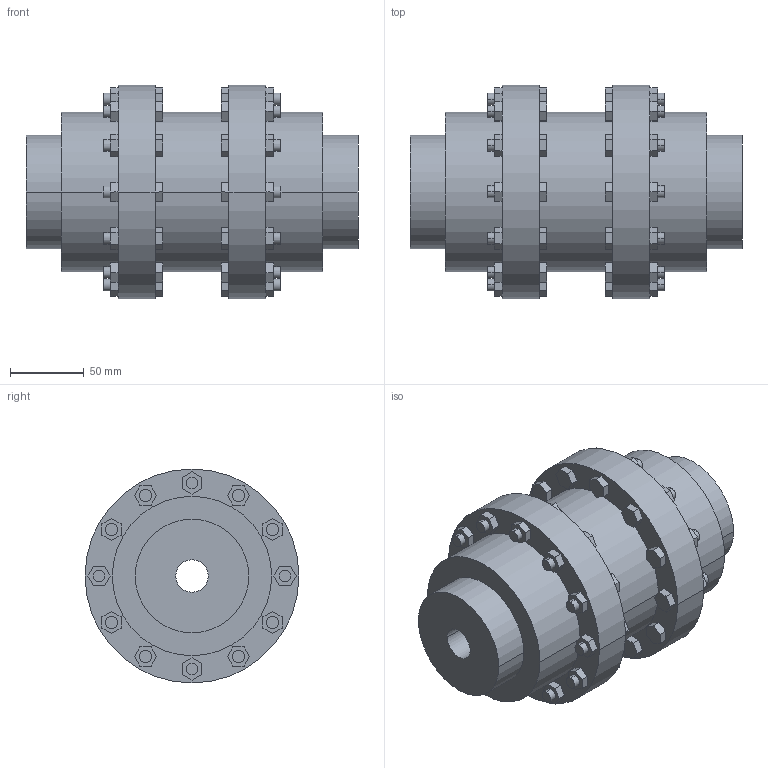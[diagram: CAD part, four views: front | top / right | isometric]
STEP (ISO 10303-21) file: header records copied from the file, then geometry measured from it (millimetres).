
FILE_DESCRIPTION((''),'2;1');
FILE_NAME('A19045500-0_ASM','2018-10-24T',('AB_Roschiwal'),('RENK AG'),'PRO/ENGINEER BY PARAMETRIC TECHNOLOGY CORPORATION, 2015440','PRO/ENGINEER BY PARAMETRIC TECHNOLOGY CORPORATION, 2015440','');
FILE_SCHEMA(('CONFIG_CONTROL_DESIGN'));
Length unit declared in the file: millimetre
Products named in the file (3): LBLK48_GEHAEUSE; LBLK48_NABE; A19045500-0_ASM
Assembly tree (3 placements, depth 2):
  A19045500-0_ASM
    LBLK48_GEHAEUSE
    LBLK48_NABE  x2
Bounding box: 225 x 145 x 145 mm (x, y, z)
Volume: 1514021 mm3; surface area: 251445.6 mm2
Topology: 3 solids, 3 shells, 456 faces, 1104 edges, 736 vertices
Faces by surface type: plane 376, cylinder 80
Entity records: 12972 total; most frequent: CARTESIAN_POINT 2250, ORIENTED_EDGE 2160, DIRECTION 2124, EDGE_CURVE 1080, VECTOR 936, LINE 936, VERTEX_POINT 720, AXIS2_PLACEMENT_3D 594
